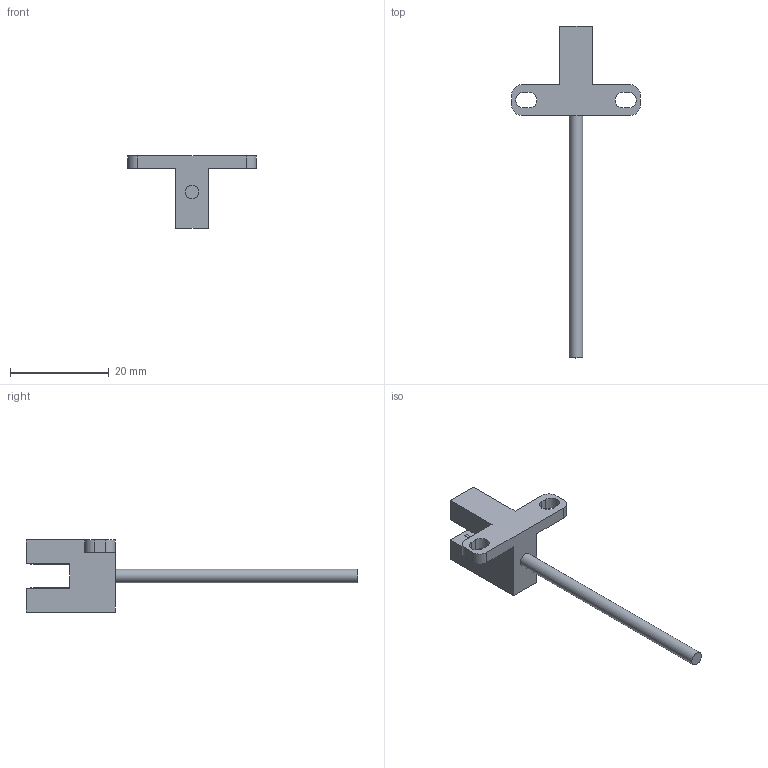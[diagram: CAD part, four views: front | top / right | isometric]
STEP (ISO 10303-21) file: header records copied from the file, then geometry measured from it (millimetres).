
FILE_DESCRIPTION(/* description */ (''),/* implementation_level */ '2;1');
FILE_NAME(/* name */ 'F:\HUAYIFENG\01)HUAYIFENG_宣传文件\01)HUAYIFENG_\X2\5BA34F2065874EF6\X0\_产品资料整合\03)产品3D文档\03)产品3D_槽型系列_K12_2019\03-03)LU45系列_3D\LU_T45.stp',/* time_stamp */ '2020-08-12T19:13:10+08:00',/* author */ ('fengjiarun'),/* organization */ (''),/* preprocessor_version */ 'ST-DEVELOPER v16.5',/* originating_system */ 'Autodesk Inventor 2017',/* authorisation */ '');
FILE_SCHEMA (('AUTOMOTIVE_DESIGN { 1 0 10303 214 3 1 1 }'));
Length unit declared in the file: millimetre
Products named in the file (1): 零件18
Bounding box: 26 x 67.2 x 14.6 mm (x, y, z)
Volume: 1991 mm3; surface area: 1760.9 mm2
Topology: 1 solids, 1 shells, 54 faces, 147 edges, 98 vertices
Faces by surface type: plane 45, cylinder 9
Full cylindrical faces by diameter (mm): 2.8 x1
Entity records: 1731 total; most frequent: CARTESIAN_POINT 299, ORIENTED_EDGE 292, DIRECTION 274, EDGE_CURVE 146, LINE 128, VECTOR 128, VERTEX_POINT 98, AXIS2_PLACEMENT_3D 73
